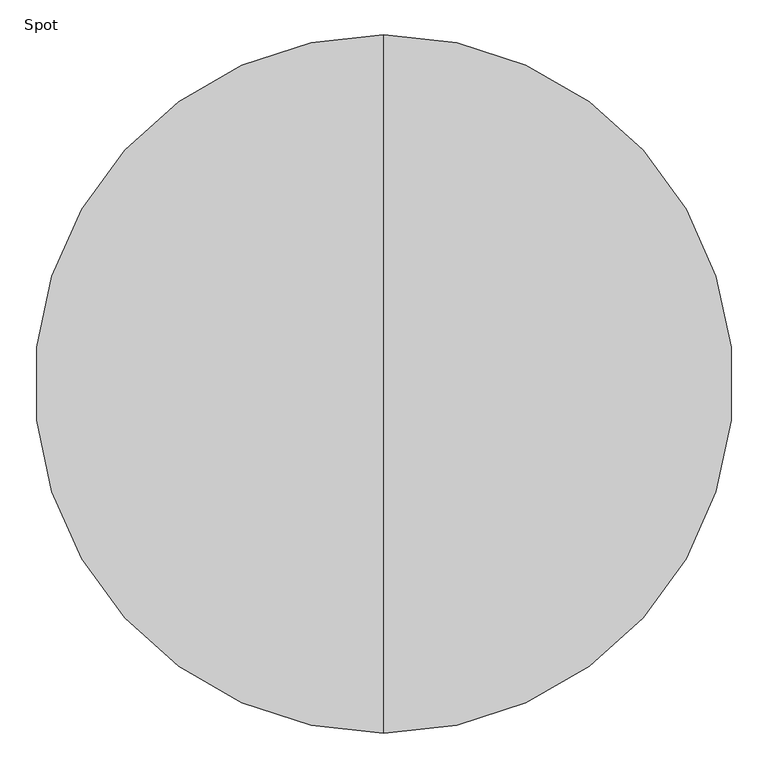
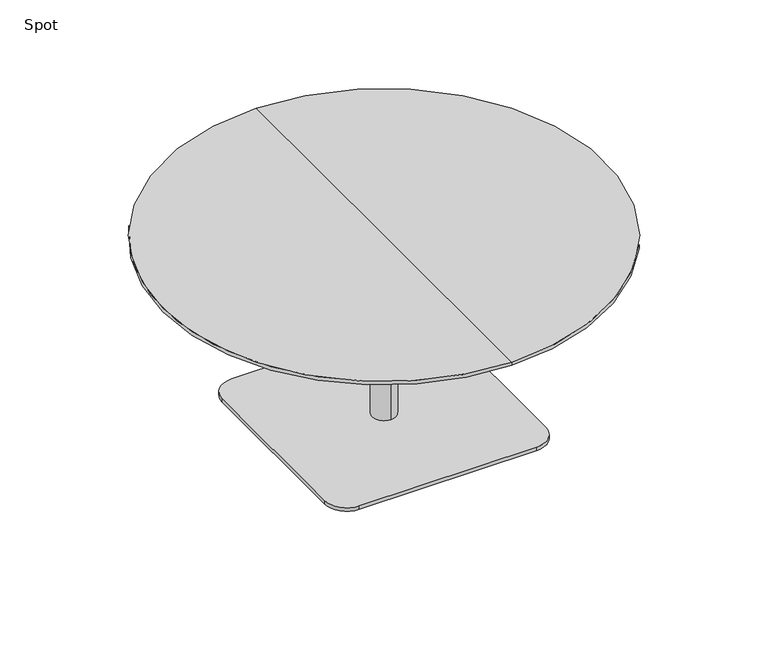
"""IFC4 building model written with IfcOpenShell, lengths in millimetres: furniture geometry, Spot : Bø120x52s."""

from ifc_helpers import new_model, si_unit, point, frame, frame_2d, origin, origin_with_axes, place, context, project, spatial, polyline, circle_curve, trimmed, segment, composite_curve, outline, extrude, source, transform, mapped, element, save
from ifc_brep_helpers import plane_surface, cylinder_surface, revolved_surface, advanced_brep


def spot_9efdca79(model_context):
    return source(origin(), model_context, "Body", "SolidModel", [
        advanced_brep(
        [(0.0, -600.0, 520.0), (0.0, 600.0, 520.0), (0.0, 0.0, 520.0), (0.0, 600.0, 510.25), (0.0, -600.0, 510.25), (0.0, 0.0, 498.0), (0.0, -554.2823776, 498.0), (0.0, 554.2823776, 498.0)],
        [
            (0, 1, circle_curve(frame((0.0, 0.0, 520.0), z_axis=(0.0, 0.0, 1.0), x_axis=(0.0, -1.0, 0.0)), 600.0)),
            (1, 2),
            (2, 0),
            (3, 4, circle_curve(frame((0.0, 0.0, 510.25), z_axis=(0.0, 0.0, 1.0), x_axis=(0.0, -1.0, 0.0)), 600.0)),
            (4, 0),
            (0, 1, circle_curve(frame((0.0, 0.0, 520.0), z_axis=(0.0, 0.0, -1.0), x_axis=(0.0, -1.0, 0.0)), 600.0)),
            (1, 3),
            (5, 6),
            (6, 7, circle_curve(frame((0.0, 0.0, 498.0), z_axis=(0.0, 0.0, -1.0), x_axis=(0.0, -1.0, 0.0)), 554.2823776)),
            (7, 5),
            (7, 6, circle_curve(frame((0.0, 0.0, 498.0), z_axis=(0.0, 0.0, -1.0), x_axis=(0.0, -1.0, 0.0)), 554.2823776)),
            (4, 3, circle_curve(frame((0.0, 0.0, 510.25), z_axis=(0.0, 0.0, 1.0), x_axis=(0.0, -1.0, 0.0)), 600.0)),
            (6, 4),
            (3, 7),
        ],
        [
            plane_surface(frame((0.0, 0.0, 520.0), z_axis=(0.0, 0.0, 1.0), x_axis=(0.0, -1.0, 0.0))),
            cylinder_surface(frame((0.0, 0.0, 600.0), z_axis=(0.0, 0.0, -1.0), x_axis=(0.0, -1.0, 0.0)), 600.0),
            plane_surface(frame((0.0, 0.0, 498.0), z_axis=(0.0, 0.0, -1.0), x_axis=(0.0, -1.0, 0.0))),
            revolved_surface(polyline([(0.0, -600.0, 510.25), (0.0, -554.2823776, 498.0)]), (0.0, 0.0, 600.0), (0.0, 0.0, -1.0)),
        ],
        [
            (0, [[1, 2, 3]]),
            (1, [[4, 5, 6, 7]]),
            (2, [[8, 9, 10]]),
            (2, [[-10, 11, -8]]),
            (0, [[-6, -3, -2]]),
            (1, [[12, -7, -1, -5]]),
            (3, [[-9, 13, -4, 14]]),
            (3, [[-11, -14, -12, -13]]),
        ],
    ),
        extrude(outline(composite_curve([segment(trimmed(circle_curve(frame_2d((240.0, 240.0)), 60.0), [point((240.0, 300.0))], [point((300.0, 240.0))], False, "CARTESIAN"), True, "CONTINUOUS"), segment(polyline([(300.0, 240.0), (300.0, -240.0)]), True, "CONTINUOUS"), segment(trimmed(circle_curve(frame_2d((240.0, -240.0)), 60.0), [point((300.0, -240.0))], [point((240.0, -300.0))], False, "CARTESIAN"), True, "CONTINUOUS"), segment(polyline([(240.0, -300.0), (-240.0, -300.0)]), True, "CONTINUOUS"), segment(trimmed(circle_curve(frame_2d((-240.0, -240.0)), 60.0), [point((-240.0, -300.0))], [point((-300.0, -240.0))], False, "CARTESIAN"), True, "CONTINUOUS"), segment(polyline([(-300.0, -240.0), (-300.0, 240.0)]), True, "CONTINUOUS"), segment(trimmed(circle_curve(frame_2d((-240.0, 240.0)), 60.0), [point((-300.0, 240.0))], [point((-240.0, 300.0))], False, "CARTESIAN"), True, "CONTINUOUS"), segment(polyline([(-240.0, 300.0), (240.0, 300.0)]), True, "CONTINUOUS")], self_intersect=False)), origin_with_axes(), (0.0, 0.0, 1.0), 10.0),
        advanced_brep(
        [(0.0, 32.0, 10.0), (0.0, -32.0, 10.0), (0.0, -32.0, 467.406916), (0.0, 32.0, 467.406916), (0.0, 0.0, 10.0), (0.0, 150.0, 498.0), (0.0, -150.0, 498.0), (0.0, 0.0, 498.0), (0.0, 150.0, 486.7213673), (0.0, -150.0, 486.7213673)],
        [
            (0, 1, circle_curve(frame((0.0, 0.0, 10.0), z_axis=(0.0, 0.0, 1.0), x_axis=(0.0, -1.0, 0.0)), 32.0)),
            (1, 2),
            (2, 3, circle_curve(frame((0.0, 0.0, 467.406916), z_axis=(0.0, 0.0, -1.0), x_axis=(0.0, -1.0, 0.0)), 32.0)),
            (3, 0),
            (1, 0, circle_curve(frame((0.0, 0.0, 10.0), z_axis=(0.0, 0.0, 1.0), x_axis=(0.0, -1.0, 0.0)), 32.0)),
            (3, 2, circle_curve(frame((0.0, 0.0, 467.406916), z_axis=(0.0, 0.0, -1.0), x_axis=(0.0, -1.0, 0.0)), 32.0)),
            (4, 1),
            (0, 4),
            (5, 6, circle_curve(frame((0.0, 0.0, 498.0), z_axis=(0.0, 0.0, 1.0), x_axis=(0.0, -1.0, 0.0)), 150.0)),
            (6, 7),
            (7, 5),
            (6, 5, circle_curve(frame((0.0, 0.0, 498.0), z_axis=(0.0, 0.0, 1.0), x_axis=(0.0, -1.0, 0.0)), 150.0)),
            (8, 9, circle_curve(frame((0.0, 0.0, 486.7213673), z_axis=(0.0, 0.0, 1.0), x_axis=(0.0, -1.0, 0.0)), 150.0)),
            (9, 6),
            (5, 8),
            (9, 8, circle_curve(frame((0.0, 0.0, 486.7213673), z_axis=(0.0, 0.0, 1.0), x_axis=(0.0, -1.0, 0.0)), 150.0)),
            (2, 9),
            (8, 3),
        ],
        [
            cylinder_surface(frame((0.0, 0.0, 860.0), z_axis=(0.0, 0.0, -1.0), x_axis=(0.0, -1.0, 0.0)), 32.0),
            plane_surface(frame((0.0, 0.0, 10.0), z_axis=(0.0, 0.0, -1.0), x_axis=(0.0, -1.0, 0.0))),
            plane_surface(frame((0.0, 0.0, 498.0), z_axis=(0.0, 0.0, 1.0), x_axis=(0.0, -1.0, 0.0))),
            cylinder_surface(frame((0.0, 0.0, 860.0), z_axis=(0.0, 0.0, -1.0), x_axis=(0.0, -1.0, 0.0)), 150.0),
            revolved_surface(polyline([(0.0, -150.0, 486.7213673), (0.0, -32.0, 467.406916)]), (0.0, 0.0, 860.0), (0.0, 0.0, -1.0)),
        ],
        [
            (0, [[1, 2, 3, 4]]),
            (0, [[5, -4, 6, -2]]),
            (1, [[7, -1, 8]]),
            (1, [[-8, -5, -7]]),
            (2, [[9, 10, 11]]),
            (2, [[12, -11, -10]]),
            (3, [[13, 14, -9, 15]]),
            (3, [[16, -15, -12, -14]]),
            (4, [[-3, 17, -13, 18]]),
            (4, [[-6, -18, -16, -17]]),
        ],
    ),
        extrude(outline(polyline([(0.0, 0.0), (-20.0, 0.0), (-20.0, 20.0), (0.0, 20.0), (0.0, 0.0)])), origin_with_axes(), (0.0, 0.0, 1.0), 10.0),
    ])


if __name__ == "__main__":
    model = new_model("IFC4")
    model_context = context("Model", 3, world=origin())
    ifc_project = project(units=[si_unit("LENGTHUNIT", "METRE", prefix="MILLI")], contexts=[model_context])
    site = spatial("IfcSite", under=ifc_project)
    building = spatial("IfcBuilding", under=site)
    placement = place(None, origin())
    spot_shape = spot_9efdca79(model_context)
    element("IfcFurniture", 1, ObjectType="Spot : Bø120x52s", at=placement, inside=building, context=model_context, shape_type="MappedRepresentation", body=[
        mapped(spot_shape, transform((0.0, 0.0, 0.0), x_axis=(1.0, 0.0, 0.0), y_axis=(0.0, 1.0, 0.0), z_axis=(0.0, 0.0, 1.0))),
    ])
    save(model, "model.ifc")
